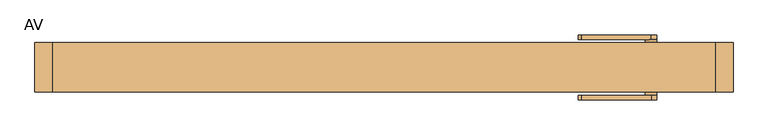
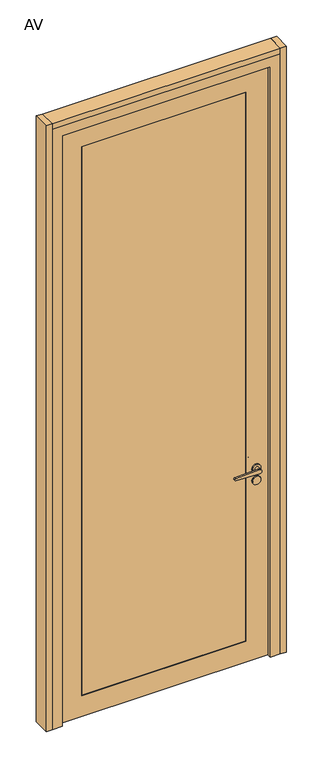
"""IFC4 building model written with IfcOpenShell, lengths in millimetres: door geometry, Mobiliário_Mobiliário de Escritório_Porta de Giro Vidro Duplo - AV_Marelli : AV."""

from ifc_helpers import new_model, si_unit, point, frame, frame_2d, origin, origin_with_axes, place, context, project, spatial, polyline, circle_curve, trimmed, segment, composite_curve, outline, extrude, faceted_brep, source, transform, mapped, element, save


def av_c553ab14(model_context):
    return source(origin(), model_context, "Body", "SolidModel", [
        extrude(outline(polyline([(-600.0, -42.5), (-600.0, 42.5), (-570.0, 42.5), (-570.0, -42.5), (-600.0, -42.5)])), origin_with_axes(), (0.0, 0.0, 1.0), 3200.0),
        extrude(outline(polyline([(600.0, -42.5), (570.0, -42.5), (570.0, 42.5), (600.0, 42.5), (600.0, -42.5)])), origin_with_axes(), (0.0, 0.0, 1.0), 3200.0),
        extrude(outline(polyline([(3119.5, -519.5), (0.5, -519.5), (0.5, 519.5), (3119.5, 519.5), (3119.5, -519.5)]), holes=[polyline([(110.5, 409.5), (110.5, -409.5), (3009.5, -409.5), (3009.5, 409.5), (110.5, 409.5)])]), frame((0.0, -21.0, 0.0), z_axis=(0.0, 1.0, 0.0), x_axis=(0.0, 0.0, 1.0)), (0.0, 0.0, 1.0), 42.0),
        extrude(outline(polyline([(409.5, -18.5), (-409.5, -18.5), (-409.5, -12.5), (409.5, -12.5), (409.5, -18.5)])), frame((0.0, 0.0, 110.5), z_axis=(0.0, 0.0, 1.0), x_axis=(1.0, 0.0, 0.0)), (0.0, 0.0, 1.0), 2899.0),
        extrude(outline(polyline([(409.5, 18.5), (409.5, 12.5), (-409.5, 12.5), (-409.5, 18.5), (409.5, 18.5)])), frame((0.0, 0.0, 110.5), z_axis=(0.0, 0.0, 1.0), x_axis=(1.0, 0.0, 0.0)), (0.0, 0.0, 1.0), 2899.0),
        extrude(outline(polyline([(570.0, -42.5), (-570.0, -42.5), (-570.0, 42.5), (570.0, 42.5), (570.0, -42.5)])), frame((0.0, 0.0, 3170.0), z_axis=(0.0, 0.0, 1.0), x_axis=(1.0, 0.0, 0.0)), (0.0, 0.0, 1.0), 30.0),
        faceted_brep([(-570.0, 42.5, 3170.0), (570.0, 42.5, 3170.0), (570.0, 42.5, 0.0), (490.0, 42.5, 0.0), (490.0, 42.5, 3090.0), (-490.0, 42.5, 3090.0), (-490.0, 42.5, 0.0), (-570.0, 42.5, 0.0), (-570.0, -42.5, 0.0), (-570.0, -42.5, 3170.0), (-490.0, 21.5, 0.0), (-520.0, 21.5, 0.0), (-520.0, -42.5, 0.0), (570.0, -42.5, 0.0), (520.0, -42.5, 0.0), (520.0, 21.5, 0.0), (490.0, 21.5, 0.0), (-490.0, 21.5, 3090.0), (490.0, 21.5, 3090.0), (570.0, -42.5, 3170.0), (520.0, 21.5, 3120.0), (-520.0, 21.5, 3120.0), (-520.0, -42.5, 3120.0), (520.0, -42.5, 3120.0)], [[[0, 1, 2, 3, 4, 5, 6, 7]], [[0, 7, 8, 9]], [[7, 6, 10, 11, 12, 8]], [[2, 13, 14, 15, 16, 3]], [[6, 5, 17, 10]], [[16, 18, 4, 3]], [[19, 13, 2, 1]], [[18, 16, 15, 20, 21, 11, 10, 17]], [[21, 22, 12, 11]], [[14, 23, 20, 15]], [[23, 14, 13, 19, 9, 8, 12, 22]], [[4, 18, 17, 5]], [[22, 21, 20, 23]], [[19, 1, 0, 9]]]),
        extrude(outline(composite_curve([segment(trimmed(circle_curve(frame_2d((1010.0, 459.2)), 20.8), [point((1010.0, 438.4))], [point((1010.0, 480.0))], False, "CARTESIAN"), True, "CONTINUOUS"), segment(trimmed(circle_curve(frame_2d((1010.0, 459.2)), 20.8), [point((1010.0, 480.0))], [point((1010.0, 438.4))], False, "CARTESIAN"), True, "CONTINUOUS")], self_intersect=False)), frame((0.0, -29.0, 0.0), z_axis=(0.0, 1.0, 0.0), x_axis=(0.0, 0.0, 1.0)), (0.0, 0.0, 1.0), 8.0),
        extrude(outline(composite_curve([segment(trimmed(circle_curve(frame_2d((947.58, 459.2)), 20.8), [point((947.58, 438.4))], [point((947.58, 480.0))], False, "CARTESIAN"), True, "CONTINUOUS"), segment(trimmed(circle_curve(frame_2d((947.58, 459.2)), 20.8), [point((947.58, 480.0))], [point((947.58, 438.4))], False, "CARTESIAN"), True, "CONTINUOUS")], self_intersect=False)), frame((0.0, -29.0, 0.0), z_axis=(0.0, 1.0, 0.0), x_axis=(0.0, 0.0, 1.0)), (0.0, 0.0, 1.0), 8.0),
        extrude(outline(composite_curve([segment(trimmed(circle_curve(frame_2d((1010.0, 459.2)), 20.8), [point((1010.0, 438.4))], [point((1010.0, 480.0))], False, "CARTESIAN"), True, "CONTINUOUS"), segment(trimmed(circle_curve(frame_2d((1010.0, 459.2)), 20.8), [point((1010.0, 480.0))], [point((1010.0, 438.4))], False, "CARTESIAN"), True, "CONTINUOUS")], self_intersect=False)), frame((0.0, 21.0, 0.0), z_axis=(0.0, 1.0, 0.0), x_axis=(0.0, 0.0, 1.0)), (0.0, 0.0, 1.0), 8.0),
        extrude(outline(composite_curve([segment(trimmed(circle_curve(frame_2d((947.58, 459.2)), 20.8), [point((947.58, 438.4))], [point((947.58, 480.0))], False, "CARTESIAN"), True, "CONTINUOUS"), segment(trimmed(circle_curve(frame_2d((947.58, 459.2)), 20.8), [point((947.58, 480.0))], [point((947.58, 438.4))], False, "CARTESIAN"), True, "CONTINUOUS")], self_intersect=False)), frame((0.0, 21.0, 0.0), z_axis=(0.0, 1.0, 0.0), x_axis=(0.0, 0.0, 1.0)), (0.0, 0.0, 1.0), 8.0),
        extrude(outline(composite_curve([segment(trimmed(circle_curve(frame_2d((1010.0, 459.2)), 10.0), [point((1000.0, 459.2))], [point((1020.0, 459.2))], False, "CARTESIAN"), True, "CONTINUOUS"), segment(polyline([(1020.0, 459.2), (1014.970724, 339.0650676)]), True, "CONTINUOUS"), segment(trimmed(circle_curve(frame_2d((1010.0145906, 339.0650676)), 4.9561334), [point((1014.970724, 339.0650676))], [point((1005.0584573, 339.0650676))], False, "CARTESIAN"), True, "CONTINUOUS"), segment(polyline([(1005.0584573, 339.0650676), (1000.0, 459.2)]), True, "CONTINUOUS")], self_intersect=False)), frame((0.0, -56.0, 0.0), z_axis=(0.0, 1.0, 0.0), x_axis=(0.0, 0.0, 1.0)), (0.0, 0.0, 1.0), 8.0),
        extrude(outline(composite_curve([segment(trimmed(circle_curve(frame_2d((1010.0, 459.2)), 10.0), [point((1010.0, 449.2))], [point((1010.0, 469.2))], False, "CARTESIAN"), True, "CONTINUOUS"), segment(trimmed(circle_curve(frame_2d((1010.0, 459.2)), 10.0), [point((1010.0, 469.2))], [point((1010.0, 449.2))], False, "CARTESIAN"), True, "CONTINUOUS")], self_intersect=False)), frame((0.0, 29.0, 0.0), z_axis=(0.0, 1.0, 0.0), x_axis=(0.0, 0.0, 1.0)), (0.0, 0.0, 1.0), 19.0),
        extrude(outline(composite_curve([segment(trimmed(circle_curve(frame_2d((1010.0, 459.2)), 10.0), [point((1010.0, 449.2))], [point((1010.0, 469.2))], False, "CARTESIAN"), True, "CONTINUOUS"), segment(trimmed(circle_curve(frame_2d((1010.0, 459.2)), 10.0), [point((1010.0, 469.2))], [point((1010.0, 449.2))], False, "CARTESIAN"), True, "CONTINUOUS")], self_intersect=False)), frame((0.0, -48.0, 0.0), z_axis=(0.0, 1.0, 0.0), x_axis=(0.0, 0.0, 1.0)), (0.0, 0.0, 1.0), 19.0),
        extrude(outline(composite_curve([segment(trimmed(circle_curve(frame_2d((1010.0145906, 339.0650676)), 4.9561334), [point((1014.970724, 339.0650676))], [point((1005.0584573, 339.0650676))], False, "CARTESIAN"), True, "CONTINUOUS"), segment(polyline([(1005.0584573, 339.0650676), (1000.0, 459.2)]), True, "CONTINUOUS"), segment(trimmed(circle_curve(frame_2d((1010.0, 459.2)), 10.0), [point((1000.0, 459.2))], [point((1020.0, 459.2))], False, "CARTESIAN"), True, "CONTINUOUS"), segment(polyline([(1020.0, 459.2), (1014.970724, 339.0650676)]), True, "CONTINUOUS")], self_intersect=False)), frame((0.0, 48.0, 0.0), z_axis=(0.0, 1.0, 0.0), x_axis=(0.0, 0.0, 1.0)), (0.0, 0.0, 1.0), 8.0),
    ])


if __name__ == "__main__":
    model = new_model("IFC4")
    model_context = context("Model", 3, world=origin())
    ifc_project = project(units=[si_unit("LENGTHUNIT", "METRE", prefix="MILLI")], contexts=[model_context])
    site = spatial("IfcSite", under=ifc_project)
    building = spatial("IfcBuilding", under=site)
    placement = place(None, origin())
    av_shape = av_c553ab14(model_context)
    element("IfcDoor", 1, ObjectType="Mobiliário_Mobiliário de Escritório_Porta de Giro Vidro Duplo - AV_Marelli : AV", at=placement, inside=building, context=model_context, shape_type="MappedRepresentation", body=[
        mapped(av_shape, transform((0.0, 0.0, 0.0), x_axis=(1.0, 0.0, 0.0), y_axis=(0.0, 1.0, 0.0), z_axis=(0.0, 0.0, 1.0))),
    ])
    save(model, "model.ifc")
